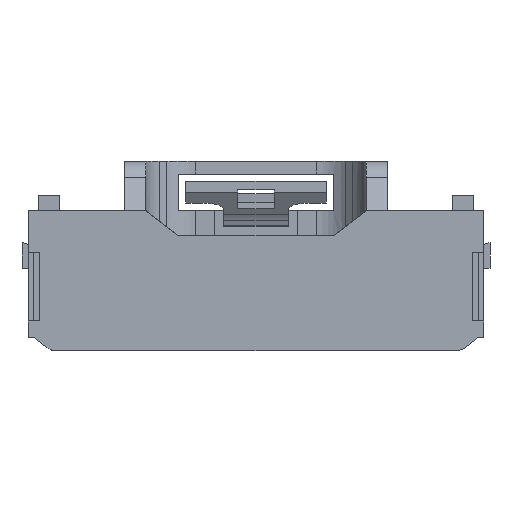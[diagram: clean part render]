
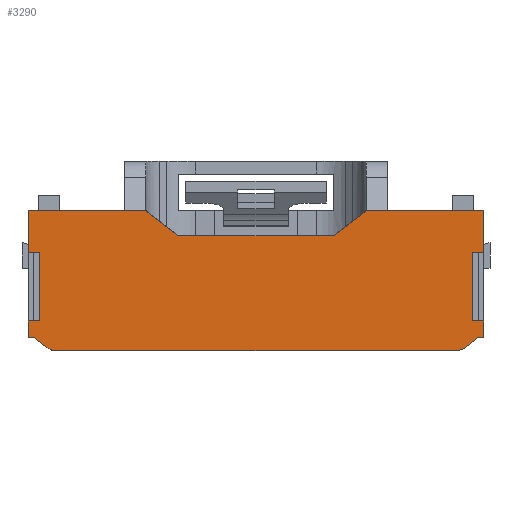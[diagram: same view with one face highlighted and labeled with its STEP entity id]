
A CAD part, left-side view. The second image highlights one B-rep face of the part: STEP entity #3290.
In plain terms, the highlighted planar face has unit normal (-1, 0, 0).
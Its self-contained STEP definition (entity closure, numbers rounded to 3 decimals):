
#2296=AXIS2_PLACEMENT_3D('Circle Axis2P3D',#2294,#2295,$) ;
#2338=AXIS2_PLACEMENT_3D('Circle Axis2P3D',#2336,#2337,$) ;
#3244=AXIS2_PLACEMENT_3D('Plane Axis2P3D',#3241,#3242,#3243) ;
#142=CARTESIAN_POINT('Vertex',(-23.4,-3.,2.5)) ;
#149=CARTESIAN_POINT('Vertex',(-23.4,-3.8,2.5)) ;
#152=CARTESIAN_POINT('Line Origine',(-23.4,-3.4,2.5)) ;
#171=CARTESIAN_POINT('Line Origine',(-23.4,-3.,0.075)) ;
#175=CARTESIAN_POINT('Vertex',(-23.4,-3.,-2.35)) ;
#195=CARTESIAN_POINT('Line Origine',(-23.4,-3.4,-2.35)) ;
#199=CARTESIAN_POINT('Vertex',(-23.4,-3.8,-2.35)) ;
#248=CARTESIAN_POINT('Vertex',(-23.4,-3.8,5.5)) ;
#251=CARTESIAN_POINT('Line Origine',(-23.4,-3.8,4.)) ;
#256=CARTESIAN_POINT('Line Origine',(-23.4,-3.8,-2.95)) ;
#260=CARTESIAN_POINT('Vertex',(-23.4,-3.8,-3.55)) ;
#427=CARTESIAN_POINT('Line Origine',(-23.4,-3.571,-3.55)) ;
#431=CARTESIAN_POINT('Vertex',(-23.4,-3.343,-3.55)) ;
#452=CARTESIAN_POINT('Vertex',(-23.4,28.143,-3.55)) ;
#455=CARTESIAN_POINT('Line Origine',(-23.4,28.371,-3.55)) ;
#459=CARTESIAN_POINT('Vertex',(-23.4,28.6,-3.55)) ;
#1061=CARTESIAN_POINT('Vertex',(-23.4,28.6,5.5)) ;
#1064=CARTESIAN_POINT('Line Origine',(-23.4,24.425,5.5)) ;
#1068=CARTESIAN_POINT('Vertex',(-23.4,20.25,5.5)) ;
#1775=CARTESIAN_POINT('Vertex',(-23.4,6.9,3.7)) ;
#1778=CARTESIAN_POINT('Line Origine',(-23.4,5.725,4.6)) ;
#1782=CARTESIAN_POINT('Vertex',(-23.4,4.55,5.5)) ;
#1832=CARTESIAN_POINT('Vertex',(-23.4,17.9,3.7)) ;
#1835=CARTESIAN_POINT('Line Origine',(-23.4,12.4,3.7)) ;
#2086=CARTESIAN_POINT('Line Origine',(-23.4,27.8,0.075)) ;
#2090=CARTESIAN_POINT('Vertex',(-23.4,27.8,2.5)) ;
#2092=CARTESIAN_POINT('Vertex',(-23.4,27.8,-2.35)) ;
#2182=CARTESIAN_POINT('Vertex',(-23.4,28.6,-2.35)) ;
#2185=CARTESIAN_POINT('Line Origine',(-23.4,28.2,-2.35)) ;
#2225=CARTESIAN_POINT('Vertex',(-23.4,27.272,-4.236)) ;
#2228=CARTESIAN_POINT('Line Origine',(-23.4,27.707,-3.893)) ;
#2291=CARTESIAN_POINT('Vertex',(-23.4,-2.472,-4.236)) ;
#2294=CARTESIAN_POINT('Axis2P3D Location',(-23.4,-1.853,-3.45)) ;
#2298=CARTESIAN_POINT('Vertex',(-23.4,-1.853,-4.45)) ;
#2333=CARTESIAN_POINT('Vertex',(-23.4,26.653,-4.45)) ;
#2336=CARTESIAN_POINT('Axis2P3D Location',(-23.4,26.653,-3.45)) ;
#2970=CARTESIAN_POINT('Line Origine',(-23.4,28.2,2.5)) ;
#2974=CARTESIAN_POINT('Vertex',(-23.4,28.6,2.5)) ;
#3123=CARTESIAN_POINT('Line Origine',(-23.4,28.6,-2.95)) ;
#3128=CARTESIAN_POINT('Line Origine',(-23.4,28.6,4.)) ;
#3241=CARTESIAN_POINT('Axis2P3D Location',(-23.4,28.6,4.5)) ;
#3246=CARTESIAN_POINT('Line Origine',(-23.4,12.4,-4.45)) ;
#3251=CARTESIAN_POINT('Line Origine',(-23.4,-2.907,-3.893)) ;
#3256=CARTESIAN_POINT('Line Origine',(-23.4,0.375,5.5)) ;
#3261=CARTESIAN_POINT('Line Origine',(-23.4,19.075,4.6)) ;
#153=DIRECTION('Vector Direction',(0.,-1.,0.)) ;
#172=DIRECTION('Vector Direction',(0.,0.,-1.)) ;
#196=DIRECTION('Vector Direction',(0.,1.,0.)) ;
#252=DIRECTION('Vector Direction',(0.,0.,-1.)) ;
#257=DIRECTION('Vector Direction',(0.,0.,1.)) ;
#428=DIRECTION('Vector Direction',(0.,-1.,0.)) ;
#456=DIRECTION('Vector Direction',(0.,-1.,0.)) ;
#1065=DIRECTION('Vector Direction',(0.,-1.,0.)) ;
#1779=DIRECTION('Vector Direction',(0.,0.794,-0.608)) ;
#1836=DIRECTION('Vector Direction',(0.,-1.,0.)) ;
#2087=DIRECTION('Vector Direction',(0.,0.,-1.)) ;
#2186=DIRECTION('Vector Direction',(0.,1.,0.)) ;
#2229=DIRECTION('Vector Direction',(0.,-0.786,-0.619)) ;
#2295=DIRECTION('Axis2P3D Direction',(-1.,-0.,0.)) ;
#2337=DIRECTION('Axis2P3D Direction',(-1.,0.,0.)) ;
#2971=DIRECTION('Vector Direction',(0.,-1.,0.)) ;
#3124=DIRECTION('Vector Direction',(0.,0.,-1.)) ;
#3129=DIRECTION('Vector Direction',(0.,0.,-1.)) ;
#3242=DIRECTION('Axis2P3D Direction',(1.,0.,-0.)) ;
#3243=DIRECTION('Axis2P3D XDirection',(0.,0.,1.)) ;
#3247=DIRECTION('Vector Direction',(0.,-1.,0.)) ;
#3252=DIRECTION('Vector Direction',(0.,-0.786,0.619)) ;
#3257=DIRECTION('Vector Direction',(0.,-1.,0.)) ;
#3262=DIRECTION('Vector Direction',(0.,-0.794,-0.608)) ;
#154=VECTOR('Line Direction',#153,1.) ;
#173=VECTOR('Line Direction',#172,1.) ;
#197=VECTOR('Line Direction',#196,1.) ;
#253=VECTOR('Line Direction',#252,1.) ;
#258=VECTOR('Line Direction',#257,1.) ;
#429=VECTOR('Line Direction',#428,1.) ;
#457=VECTOR('Line Direction',#456,1.) ;
#1066=VECTOR('Line Direction',#1065,1.) ;
#1780=VECTOR('Line Direction',#1779,1.) ;
#1837=VECTOR('Line Direction',#1836,1.) ;
#2088=VECTOR('Line Direction',#2087,1.) ;
#2187=VECTOR('Line Direction',#2186,1.) ;
#2230=VECTOR('Line Direction',#2229,1.) ;
#2972=VECTOR('Line Direction',#2971,1.) ;
#3125=VECTOR('Line Direction',#3124,1.) ;
#3130=VECTOR('Line Direction',#3129,1.) ;
#3248=VECTOR('Line Direction',#3247,1.) ;
#3253=VECTOR('Line Direction',#3252,1.) ;
#3258=VECTOR('Line Direction',#3257,1.) ;
#3263=VECTOR('Line Direction',#3262,1.) ;
#3267=ORIENTED_EDGE('',*,*,#2232,.T.) ;
#3268=ORIENTED_EDGE('',*,*,#2340,.T.) ;
#3269=ORIENTED_EDGE('',*,*,#3250,.T.) ;
#3270=ORIENTED_EDGE('',*,*,#2300,.T.) ;
#3271=ORIENTED_EDGE('',*,*,#3255,.T.) ;
#3272=ORIENTED_EDGE('',*,*,#433,.T.) ;
#3273=ORIENTED_EDGE('',*,*,#262,.T.) ;
#3274=ORIENTED_EDGE('',*,*,#201,.T.) ;
#3275=ORIENTED_EDGE('',*,*,#177,.F.) ;
#3276=ORIENTED_EDGE('',*,*,#156,.T.) ;
#3277=ORIENTED_EDGE('',*,*,#255,.F.) ;
#3278=ORIENTED_EDGE('',*,*,#3260,.F.) ;
#3279=ORIENTED_EDGE('',*,*,#1784,.T.) ;
#3280=ORIENTED_EDGE('',*,*,#1839,.F.) ;
#3281=ORIENTED_EDGE('',*,*,#3265,.F.) ;
#3282=ORIENTED_EDGE('',*,*,#1070,.F.) ;
#3283=ORIENTED_EDGE('',*,*,#3132,.T.) ;
#3284=ORIENTED_EDGE('',*,*,#2976,.T.) ;
#3285=ORIENTED_EDGE('',*,*,#2094,.T.) ;
#3286=ORIENTED_EDGE('',*,*,#2189,.T.) ;
#3287=ORIENTED_EDGE('',*,*,#3127,.T.) ;
#3288=ORIENTED_EDGE('',*,*,#461,.T.) ;
#3290=ADVANCED_FACE('\X2\FF8AFF9FFF70FF82\X0\ \X2\FF8EFF9EFF83FF9EFF68FF70\X0\',(#3289),#3245,.F.) ;
#2297=CIRCLE('generated circle',#2296,1.) ;
#2339=CIRCLE('generated circle',#2338,1.) ;
#156=EDGE_CURVE('',#143,#150,#155,.T.) ;
#177=EDGE_CURVE('',#143,#176,#174,.T.) ;
#201=EDGE_CURVE('',#200,#176,#198,.T.) ;
#255=EDGE_CURVE('',#249,#150,#254,.T.) ;
#262=EDGE_CURVE('',#261,#200,#259,.T.) ;
#433=EDGE_CURVE('',#432,#261,#430,.T.) ;
#461=EDGE_CURVE('',#460,#453,#458,.T.) ;
#1070=EDGE_CURVE('',#1062,#1069,#1067,.T.) ;
#1784=EDGE_CURVE('',#1783,#1776,#1781,.T.) ;
#1839=EDGE_CURVE('',#1833,#1776,#1838,.T.) ;
#2094=EDGE_CURVE('',#2091,#2093,#2089,.T.) ;
#2189=EDGE_CURVE('',#2093,#2183,#2188,.T.) ;
#2232=EDGE_CURVE('',#453,#2226,#2231,.T.) ;
#2300=EDGE_CURVE('',#2299,#2292,#2297,.T.) ;
#2340=EDGE_CURVE('',#2226,#2334,#2339,.T.) ;
#2976=EDGE_CURVE('',#2975,#2091,#2973,.T.) ;
#3127=EDGE_CURVE('',#2183,#460,#3126,.T.) ;
#3132=EDGE_CURVE('',#1062,#2975,#3131,.T.) ;
#3250=EDGE_CURVE('',#2334,#2299,#3249,.T.) ;
#3255=EDGE_CURVE('',#2292,#432,#3254,.T.) ;
#3260=EDGE_CURVE('',#1783,#249,#3259,.T.) ;
#3265=EDGE_CURVE('',#1069,#1833,#3264,.T.) ;
#3266=EDGE_LOOP('',(#3267,#3268,#3269,#3270,#3271,#3272,#3273,#3274,#3275,#3276,#3277,#3278,#3279,#3280,#3281,#3282,#3283,#3284,#3285,#3286,#3287,#3288)) ;
#3289=FACE_OUTER_BOUND('',#3266,.T.) ;
#155=LINE('Line',#152,#154) ;
#174=LINE('Line',#171,#173) ;
#198=LINE('Line',#195,#197) ;
#254=LINE('Line',#251,#253) ;
#259=LINE('Line',#256,#258) ;
#430=LINE('Line',#427,#429) ;
#458=LINE('Line',#455,#457) ;
#1067=LINE('Line',#1064,#1066) ;
#1781=LINE('Line',#1778,#1780) ;
#1838=LINE('Line',#1835,#1837) ;
#2089=LINE('Line',#2086,#2088) ;
#2188=LINE('Line',#2185,#2187) ;
#2231=LINE('Line',#2228,#2230) ;
#2973=LINE('Line',#2970,#2972) ;
#3126=LINE('Line',#3123,#3125) ;
#3131=LINE('Line',#3128,#3130) ;
#3249=LINE('Line',#3246,#3248) ;
#3254=LINE('Line',#3251,#3253) ;
#3259=LINE('Line',#3256,#3258) ;
#3264=LINE('Line',#3261,#3263) ;
#3245=PLANE('',#3244) ;
#143=VERTEX_POINT('',#142) ;
#150=VERTEX_POINT('',#149) ;
#176=VERTEX_POINT('',#175) ;
#200=VERTEX_POINT('',#199) ;
#249=VERTEX_POINT('',#248) ;
#261=VERTEX_POINT('',#260) ;
#432=VERTEX_POINT('',#431) ;
#453=VERTEX_POINT('',#452) ;
#460=VERTEX_POINT('',#459) ;
#1062=VERTEX_POINT('',#1061) ;
#1069=VERTEX_POINT('',#1068) ;
#1776=VERTEX_POINT('',#1775) ;
#1783=VERTEX_POINT('',#1782) ;
#1833=VERTEX_POINT('',#1832) ;
#2091=VERTEX_POINT('',#2090) ;
#2093=VERTEX_POINT('',#2092) ;
#2183=VERTEX_POINT('',#2182) ;
#2226=VERTEX_POINT('',#2225) ;
#2292=VERTEX_POINT('',#2291) ;
#2299=VERTEX_POINT('',#2298) ;
#2334=VERTEX_POINT('',#2333) ;
#2975=VERTEX_POINT('',#2974) ;
